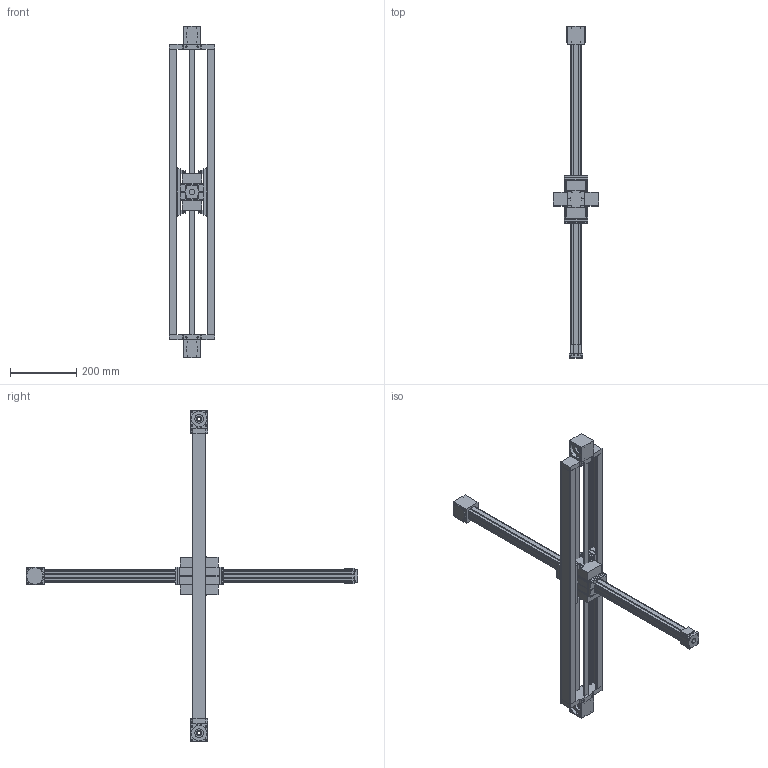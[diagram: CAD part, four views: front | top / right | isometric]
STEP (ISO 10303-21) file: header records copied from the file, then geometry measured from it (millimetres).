
FILE_DESCRIPTION (( 'STEP AP214' ), '1' );
FILE_NAME ('ELZI30.STEP', '2022-07-12T13:39:00', ( '' ), ( '' ), 'SwSTEP 2.0', 'SolidWorks 2020', '' );
FILE_SCHEMA (( 'AUTOMOTIVE_DESIGN' ));
Length unit declared in the file: millimetre
Products named in the file (10): profile x^ELZI30_standard; bearing block^ELZI30; carriage x^ELZI30; timing belt reverse unit x^ELZI30_coupling claw pos.2; timing belt reverse unit z^ELZI30; timing belt reverse unit x^ELZI30_coupling claw pos.1; profile z^ELZI30_standard; carriage z^ELZI30_standard; end plate^ELZI30; ELZI30
Assembly tree (11 placements, depth 2):
  ELZI30
    profile z^ELZI30_standard
    profile x^ELZI30_standard
    carriage z^ELZI30_standard
    carriage x^ELZI30  x2
    bearing block^ELZI30
    timing belt reverse unit x^ELZI30_coupling claw pos.1
    end plate^ELZI30  x2
    timing belt reverse unit x^ELZI30_coupling claw pos.2
    timing belt reverse unit z^ELZI30
Bounding box: 137 x 1000 x 1000 mm (x, y, z)
Volume: 3012262.3 mm3; surface area: 1066430.8 mm2
Topology: 51 solids, 51 shells, 1210 faces, 3094 edges, 1952 vertices
Faces by surface type: plane 674, cylinder 386, cone 118, torus 24, sphere 8
Entity records: 37691 total; most frequent: DIRECTION 5995, CARTESIAN_POINT 5950, ORIENTED_EDGE 5722, EDGE_CURVE 2861, VECTOR 2029, LINE 2029, AXIS2_PLACEMENT_3D 1983, VERTEX_POINT 1866
